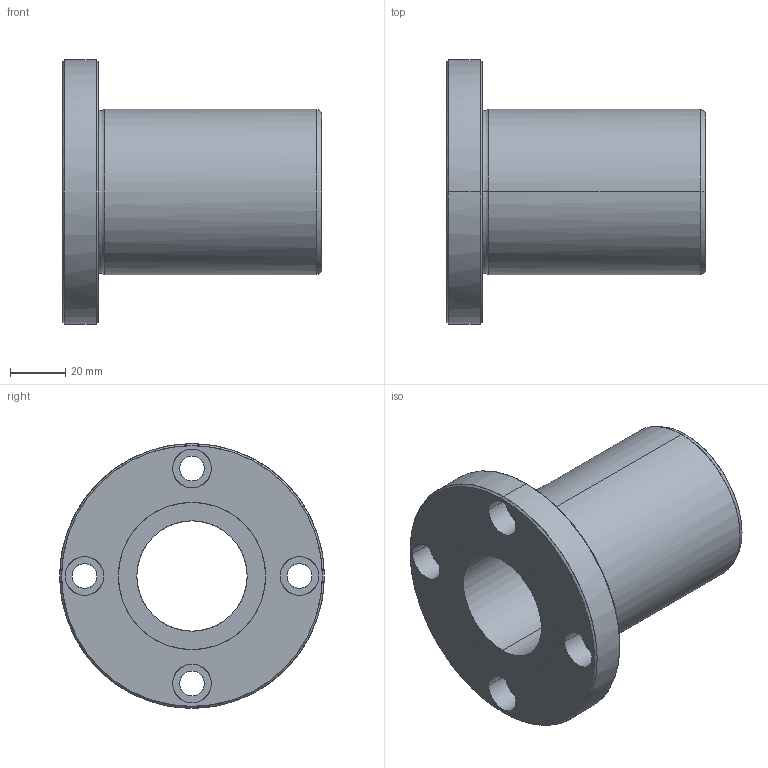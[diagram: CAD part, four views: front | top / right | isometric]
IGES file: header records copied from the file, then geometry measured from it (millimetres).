
Global section: file name: No Iges File Name specified; native system: AutoDesk Inventor R11.0; preprocessor: AutoDesk Inventor Iges Exporter R11.0; author: No Author specified; organization: No Organization specified; date: 20170921.115559; units: millimetre
Bounding box: 94 x 96 x 96 mm (x, y, z)
Surface area: 44169.1 mm2 (no closed solid volume)
Topology: 0 solids, 0 shells, 43 faces, 308 edges, 308 vertices
Faces by surface type: bspline 43
